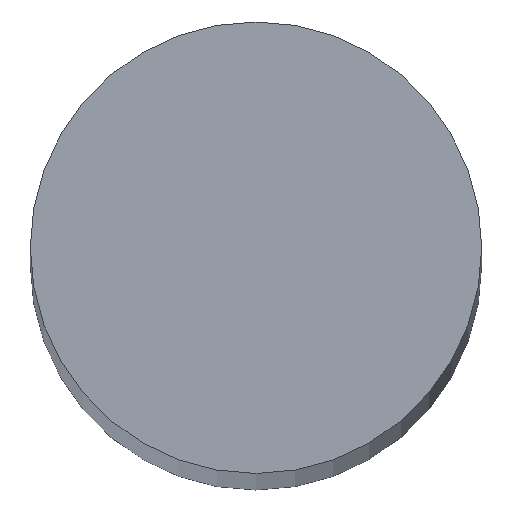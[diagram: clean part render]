
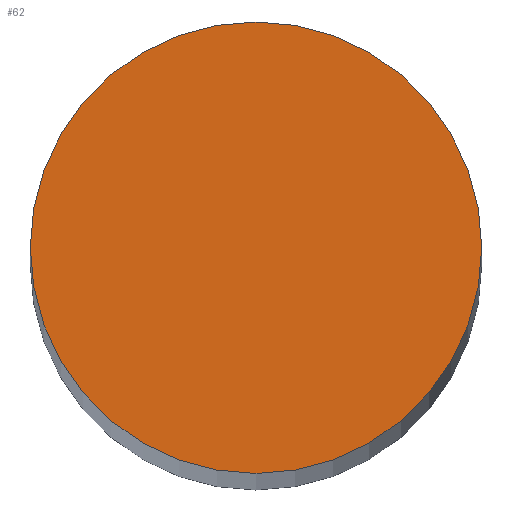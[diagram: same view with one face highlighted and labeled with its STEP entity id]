
A CAD part, top view. The second image highlights one B-rep face of the part: STEP entity #62.
In plain terms, the highlighted planar face has unit normal (0, 0, 1).
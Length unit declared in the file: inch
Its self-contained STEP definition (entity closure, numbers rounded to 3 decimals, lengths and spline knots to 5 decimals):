
#3 = VERTEX_POINT ( 'NONE', #100 ) ;
#4 = CARTESIAN_POINT ( 'NONE',  ( 0.04394, -0.06591, 10.5 ) ) ;
#22 = DIRECTION ( 'NONE',  ( 1., 0., 0. ) ) ;
#28 = EDGE_CURVE ( 'NONE', #3, #32, #65, .T. ) ;
#29 = DIRECTION ( 'NONE',  ( 0., 0., 1. ) ) ;
#32 = VERTEX_POINT ( 'NONE', #162 ) ;
#39 = CARTESIAN_POINT ( 'NONE',  ( 0.04394, -0.06591, 10.5 ) ) ;
#52 = AXIS2_PLACEMENT_3D ( 'NONE', #39, #145, #143 ) ;
#57 = CARTESIAN_POINT ( 'NONE',  ( 0.04394, -0.06591, 10.5 ) ) ;
#62 = ADVANCED_FACE ( 'NONE', ( #115 ), #149, .T. ) ;
#65 = CIRCLE ( 'NONE', #66, 0.25 ) ;
#66 = AXIS2_PLACEMENT_3D ( 'NONE', #57, #151, #22 ) ;
#92 = ORIENTED_EDGE ( 'NONE', *, *, #107, .T. ) ;
#98 = ORIENTED_EDGE ( 'NONE', *, *, #28, .T. ) ;
#100 = CARTESIAN_POINT ( 'NONE',  ( -0.20606, -0.06591, 10.5 ) ) ;
#107 = EDGE_CURVE ( 'NONE', #32, #3, #113, .T. ) ;
#113 = CIRCLE ( 'NONE', #166, 0.25 ) ;
#115 = FACE_OUTER_BOUND ( 'NONE', #133, .T. ) ;
#133 = EDGE_LOOP ( 'NONE', ( #98, #92 ) ) ;
#143 = DIRECTION ( 'NONE',  ( 1., 0., 0. ) ) ;
#145 = DIRECTION ( 'NONE',  ( 0., 0., 1. ) ) ;
#149 = PLANE ( 'NONE',  #52 ) ;
#151 = DIRECTION ( 'NONE',  ( 0., 0., 1. ) ) ;
#152 = DIRECTION ( 'NONE',  ( 1., 0., 0. ) ) ;
#162 = CARTESIAN_POINT ( 'NONE',  ( 0.29394, -0.06591, 10.5 ) ) ;
#166 = AXIS2_PLACEMENT_3D ( 'NONE', #4, #29, #152 ) ;
